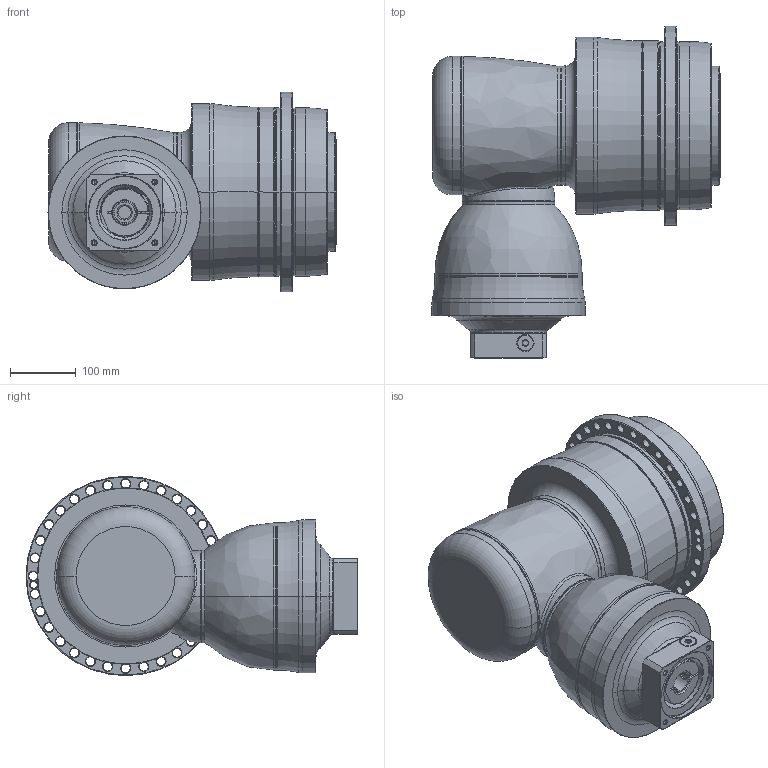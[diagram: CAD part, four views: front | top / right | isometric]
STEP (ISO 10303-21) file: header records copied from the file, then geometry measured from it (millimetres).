
FILE_DESCRIPTION((''),'2;1');
FILE_NAME('APK255_4ST_32-P0409710201_ASM','2018-10-04T',('D00080'),(''),'PRO/ENGINEER BY PARAMETRIC TECHNOLOGY CORPORATION, 2015240','PRO/ENGINEER BY PARAMETRIC TECHNOLOGY CORPORATION, 2015240','');
FILE_SCHEMA(('CONFIG_CONTROL_DESIGN'));
Length unit declared in the file: millimetre
Products named in the file (13): P1008600002; P1832700001; P0278701003; P0359701103; P1211700001; P1315600001; P1007601001; P1317610201; P0503700010; P0912552001; P0409710201; 21711418017; APK255_4ST_32-P0409710201_ASM
Assembly tree (12 placements, depth 2):
  APK255_4ST_32-P0409710201_ASM
    P1008600002
    P1832700001
    P0278701003
    P0359701103
    P1211700001
    P1315600001
    P1007601001
    P1317610201
    P0503700010
    P0912552001
    P0409710201
    21711418017
Bounding box: 436.5 x 503 x 302 mm (x, y, z)
Volume: 23800953.4 mm3; surface area: 1424010.4 mm2
Topology: 13 solids, 36 shells, 814 faces, 1905 edges, 1138 vertices
Faces by surface type: cylinder 310, cone 257, plane 121, torus 89, bspline 35, sphere 2
Entity records: 29966 total; most frequent: CARTESIAN_POINT 10652, DIRECTION 4443, ORIENTED_EDGE 3640, AXIS2_PLACEMENT_3D 1905, EDGE_CURVE 1867, VERTEX_POINT 1138, CIRCLE 1089, EDGE_LOOP 957
